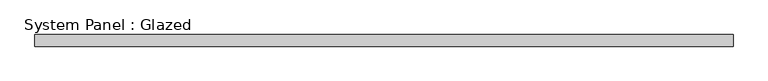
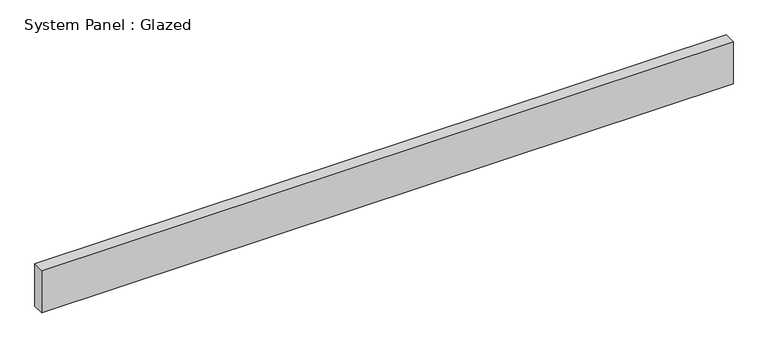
"""IFC4 building model written with IfcOpenShell, lengths in millimetres: plate geometry, System Panel : Glazed."""

from ifc_helpers import new_model, si_unit, origin, origin_with_axes, place, context, project, spatial, polyline, outline, extrude, source, transform, mapped, element, save


def system_panel_glazed_7e8a27b7(model_context):
    return source(origin(), model_context, "Body", "SweptSolid", [
        extrude(outline(polyline([(763.190625, 19.05), (-763.190625, 19.05), (-763.190625, 44.45), (763.190625, 44.45), (763.190625, 19.05)])), origin_with_axes(), (0.0, 0.0, 1.0), 98.3039978),
    ])


if __name__ == "__main__":
    model = new_model("IFC4")
    model_context = context("Model", 3, world=origin())
    ifc_project = project(units=[si_unit("LENGTHUNIT", "METRE", prefix="MILLI")], contexts=[model_context])
    site = spatial("IfcSite", under=ifc_project)
    building = spatial("IfcBuilding", under=site)
    placement = place(None, origin())
    system_panel_glazed_shape = system_panel_glazed_7e8a27b7(model_context)
    element("IfcPlate", 1, ObjectType="System Panel : Glazed", at=placement, inside=building, context=model_context, shape_type="MappedRepresentation", body=[
        mapped(system_panel_glazed_shape, transform((0.0, 0.0, 0.0), x_axis=(1.0, 0.0, 0.0), y_axis=(0.0, 1.0, 0.0), z_axis=(0.0, 0.0, 1.0))),
    ])
    save(model, "model.ifc")
